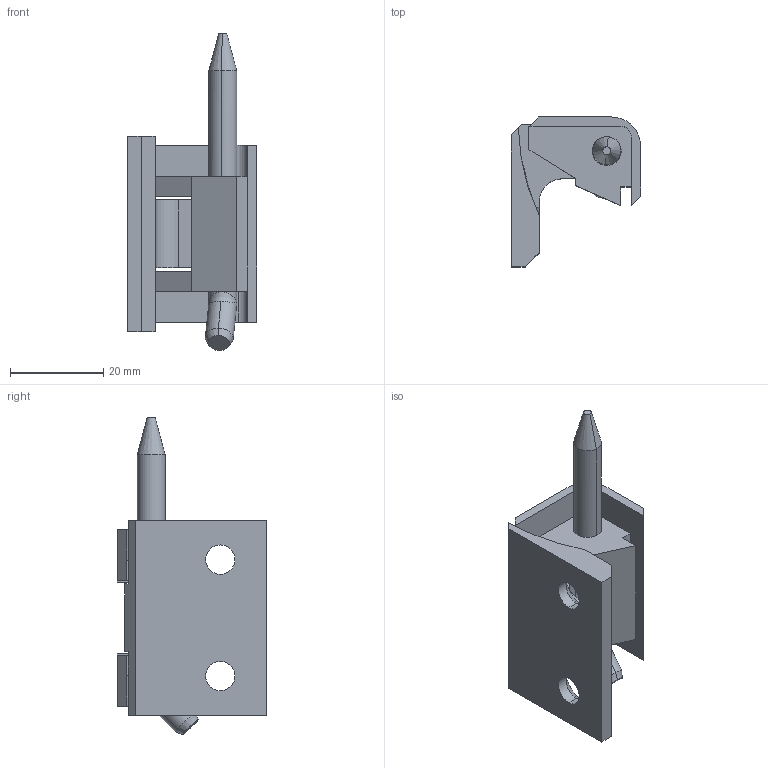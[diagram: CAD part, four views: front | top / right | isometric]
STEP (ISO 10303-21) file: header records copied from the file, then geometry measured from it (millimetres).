
FILE_DESCRIPTION (( 'STEP AP214' ), '1' );
FILE_NAME ('3.ZN80.002.STEP', '2010-02-09T16:38:35', ( '£ukaszC' ), ( '' ), 'SwSTEP 2.0', 'SolidWorks 2008', '' );
FILE_SCHEMA (( 'AUTOMOTIVE_DESIGN' ));
Length unit declared in the file: millimetre
Products named in the file (4): 3A.ZN80.002.02_Domyœlna; 3A.ZN80.001.03_Domyœlna; 3.ZN80.002; 3A.ZN80.001.01_Domyœlna
Assembly tree (3 placements, depth 2):
  3.ZN80.002
    3A.ZN80.002.02_Domyœlna
    3A.ZN80.001.01_Domyœlna
    3A.ZN80.001.03_Domyœlna
Bounding box: 27.8 x 32.15 x 68.13 mm (x, y, z)
Volume: 14167.5 mm3; surface area: 9400.8 mm2
Topology: 3 solids, 3 shells, 85 faces, 231 edges, 146 vertices
Faces by surface type: plane 45, cylinder 29, cone 8, sphere 2, bspline 1
Entity records: 2866 total; most frequent: CARTESIAN_POINT 575, DIRECTION 466, ORIENTED_EDGE 454, EDGE_CURVE 227, AXIS2_PLACEMENT_3D 159, VECTOR 148, LINE 148, VERTEX_POINT 146
